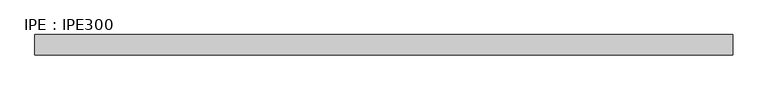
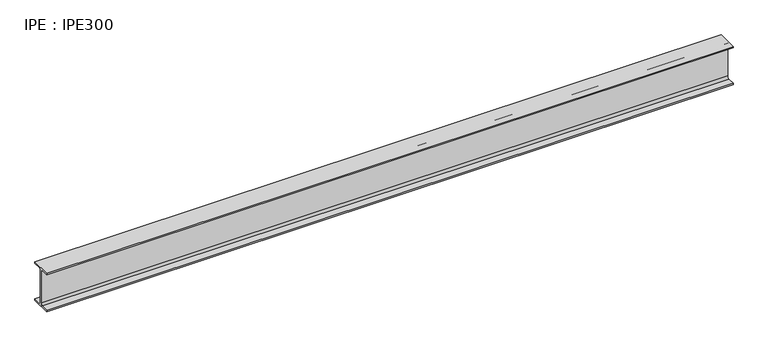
"""IFC4 building model written with IfcOpenShell, lengths in millimetres: beam geometry, IPE : IPE300."""

from ifc_helpers import new_model, si_unit, point, frame, frame_2d, origin, place, context, project, spatial, polyline, circle_curve, trimmed, segment, composite_curve, outline, extrude, source, transform, mapped, element, save


def ipe_ipe300_3a199f7d(model_context):
    return source(origin(), model_context, "Body", "SweptSolid", [
        extrude(outline(composite_curve([segment(polyline([(75.0, -139.3), (75.0, -150.0), (-75.0, -150.0), (-75.0, -139.3), (-18.55, -139.3)]), True, "CONTINUOUS"), segment(trimmed(circle_curve(frame_2d((-18.55, -124.3)), 15.0), [point((-18.55, -139.3))], [point((-3.55, -124.3))], True, "CARTESIAN"), True, "CONTINUOUS"), segment(polyline([(-3.55, -124.3), (-3.55, 124.3)]), True, "CONTINUOUS"), segment(trimmed(circle_curve(frame_2d((-18.55, 124.3)), 15.0), [point((-3.55, 124.3))], [point((-18.55, 139.3))], True, "CARTESIAN"), True, "CONTINUOUS"), segment(polyline([(-18.55, 139.3), (-75.0, 139.3), (-75.0, 150.0), (75.0, 150.0), (75.0, 139.3), (18.55, 139.3)]), True, "CONTINUOUS"), segment(trimmed(circle_curve(frame_2d((18.55, 124.3)), 15.0), [point((18.55, 139.3))], [point((3.55, 124.3))], True, "CARTESIAN"), True, "CONTINUOUS"), segment(polyline([(3.55, 124.3), (3.55, -124.3)]), True, "CONTINUOUS"), segment(trimmed(circle_curve(frame_2d((18.55, -124.3)), 15.0), [point((3.55, -124.3))], [point((18.55, -139.3))], True, "CARTESIAN"), True, "CONTINUOUS"), segment(polyline([(18.55, -139.3), (75.0, -139.3)]), True, "CONTINUOUS")], self_intersect=False)), frame((-2579.7, 0.0, 0.0), z_axis=(1.0, 0.0, 0.0), x_axis=(0.0, 1.0, 0.0)), (0.0, 0.0, 1.0), 5092.7),
    ])


if __name__ == "__main__":
    model = new_model("IFC4")
    model_context = context("Model", 3, world=origin())
    ifc_project = project(units=[si_unit("LENGTHUNIT", "METRE", prefix="MILLI")], contexts=[model_context])
    site = spatial("IfcSite", under=ifc_project)
    building = spatial("IfcBuilding", under=site)
    placement = place(None, origin())
    ipe_ipe300_shape = ipe_ipe300_3a199f7d(model_context)
    element("IfcBeam", 1, ObjectType="IPE : IPE300", at=placement, inside=building, context=model_context, shape_type="MappedRepresentation", body=[
        mapped(ipe_ipe300_shape, transform((0.0, 0.0, 0.0), x_axis=(1.0, 0.0, 0.0), y_axis=(0.0, 1.0, 0.0), z_axis=(0.0, 0.0, 1.0))),
    ])
    save(model, "model.ifc")
